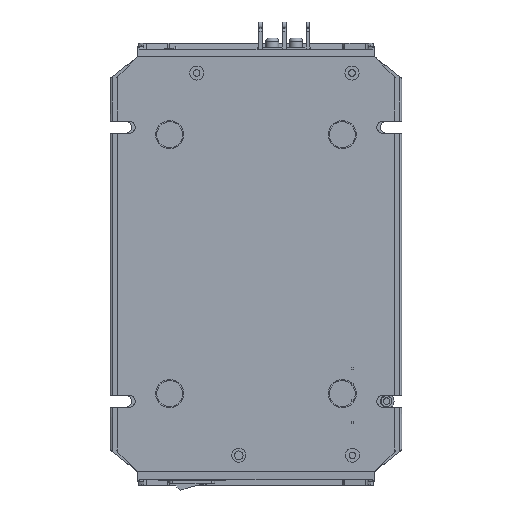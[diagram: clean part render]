
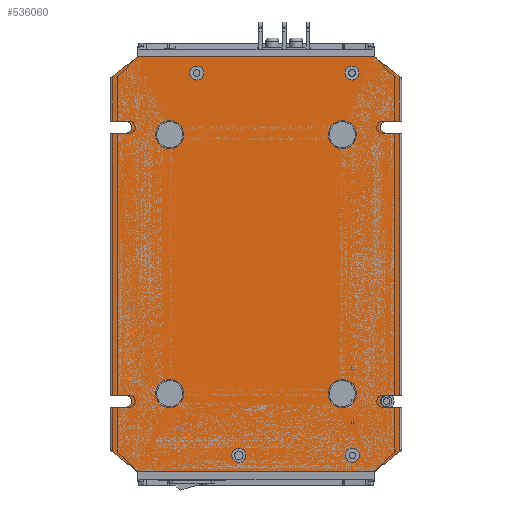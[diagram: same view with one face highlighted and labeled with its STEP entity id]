
A CAD part, front view. The second image highlights one B-rep face of the part: STEP entity #536060.
In plain terms, the highlighted planar face has unit normal (0, -1, 0).
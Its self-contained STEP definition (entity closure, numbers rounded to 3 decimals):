
#533390=CARTESIAN_POINT('',(2120.876,32.204,384.774));
#533400=DIRECTION('',(0.,1.,-0.));
#533410=DIRECTION('',(-1.,0.,0.));
#533420=AXIS2_PLACEMENT_3D('',#533390,#533400,#533410);
#533430=PLANE('',#533420);
#533440=CARTESIAN_POINT('',(2101.376,32.204,210.4));
#533450=DIRECTION('',(0.,-1.,0.));
#533460=DIRECTION('',(1.,0.,0.));
#533470=AXIS2_PLACEMENT_3D('',#533440,#533450,#533460);
#533480=CIRCLE('',#533470,6.5);
#533490=CARTESIAN_POINT('',(2107.876,32.204,210.4));
#533500=VERTEX_POINT('',#533490);
#533510=CARTESIAN_POINT('',(2094.876,32.204,210.4));
#533520=VERTEX_POINT('',#533510);
#533530=EDGE_CURVE('',#533500,#533520,#533480,.T.);
#533540=ORIENTED_EDGE('',*,*,#533530,.F.);
#533550=EDGE_CURVE('',#533520,#533500,#533480,.T.);
#533560=ORIENTED_EDGE('',*,*,#533550,.F.);
#533570=EDGE_LOOP('',(#533560,#533540));
#533580=FACE_BOUND('',#533570,.T.);
#533590=CARTESIAN_POINT('',(2021.376,32.204,330.4));
#533600=DIRECTION('',(0.,-1.,0.));
#533610=DIRECTION('',(1.,0.,0.));
#533620=AXIS2_PLACEMENT_3D('',#533590,#533600,#533610);
#533630=CIRCLE('',#533620,6.5);
#533640=CARTESIAN_POINT('',(2015.747,32.204,333.65));
#533650=VERTEX_POINT('',#533640);
#533660=CARTESIAN_POINT('',(2014.876,32.204,330.4));
#533670=VERTEX_POINT('',#533660);
#533680=EDGE_CURVE('',#533650,#533670,#533630,.T.);
#533690=ORIENTED_EDGE('',*,*,#533680,.F.);
#533700=CARTESIAN_POINT('',(2027.876,32.204,330.4));
#533710=VERTEX_POINT('',#533700);
#533720=EDGE_CURVE('',#533670,#533710,#533630,.T.);
#533730=ORIENTED_EDGE('',*,*,#533720,.F.);
#533740=EDGE_CURVE('',#533710,#533650,#533630,.T.);
#533750=ORIENTED_EDGE('',*,*,#533740,.F.);
#533760=EDGE_LOOP('',(#533750,#533730,#533690));
#533770=FACE_BOUND('',#533760,.T.);
#533780=CARTESIAN_POINT('',(2101.376,32.204,330.4));
#533790=DIRECTION('',(0.,-1.,0.));
#533800=DIRECTION('',(1.,0.,0.));
#533810=AXIS2_PLACEMENT_3D('',#533780,#533790,#533800);
#533820=CIRCLE('',#533810,6.5);
#533830=CARTESIAN_POINT('',(2107.876,32.204,330.4));
#533840=VERTEX_POINT('',#533830);
#533850=CARTESIAN_POINT('',(2094.876,32.204,330.4));
#533860=VERTEX_POINT('',#533850);
#533870=EDGE_CURVE('',#533840,#533860,#533820,.T.);
#533880=ORIENTED_EDGE('',*,*,#533870,.F.);
#533890=EDGE_CURVE('',#533860,#533840,#533820,.T.);
#533900=ORIENTED_EDGE('',*,*,#533890,.F.);
#533910=EDGE_LOOP('',(#533900,#533880));
#533920=FACE_BOUND('',#533910,.T.);
#533930=CARTESIAN_POINT('',(2021.376,32.204,210.4));
#533940=DIRECTION('',(0.,-1.,0.));
#533950=DIRECTION('',(1.,0.,0.));
#533960=AXIS2_PLACEMENT_3D('',#533930,#533940,#533950);
#533970=CIRCLE('',#533960,6.5);
#533980=CARTESIAN_POINT('',(2027.876,32.204,210.4));
#533990=VERTEX_POINT('',#533980);
#534000=CARTESIAN_POINT('',(2014.876,32.204,210.4));
#534010=VERTEX_POINT('',#534000);
#534020=EDGE_CURVE('',#533990,#534010,#533970,.T.);
#534030=ORIENTED_EDGE('',*,*,#534020,.F.);
#534040=EDGE_CURVE('',#534010,#533990,#533970,.T.);
#534050=ORIENTED_EDGE('',*,*,#534040,.F.);
#534060=EDGE_LOOP('',(#534050,#534030));
#534070=FACE_BOUND('',#534060,.T.);
#534080=CARTESIAN_POINT('',(0.,32.204,-1518.801));
#534090=DIRECTION('',(-0.781,0.,-0.625));
#534100=VECTOR('',#534090,1.);
#534110=LINE('',#534080,#534100);
#534120=CARTESIAN_POINT('',(2127.876,32.204,183.5));
#534130=VERTEX_POINT('',#534120);
#534140=CARTESIAN_POINT('',(2116.376,32.204,174.3));
#534150=VERTEX_POINT('',#534140);
#534160=EDGE_CURVE('',#534130,#534150,#534110,.T.);
#534170=ORIENTED_EDGE('',*,*,#534160,.F.);
#534180=CARTESIAN_POINT('',(0.,32.204,174.3));
#534190=DIRECTION('',(-1.,0.,0.));
#534200=VECTOR('',#534190,1.);
#534210=LINE('',#534180,#534200);
#534220=CARTESIAN_POINT('',(2006.376,32.204,174.3));
#534230=VERTEX_POINT('',#534220);
#534240=EDGE_CURVE('',#534150,#534230,#534210,.T.);
#534250=ORIENTED_EDGE('',*,*,#534240,.F.);
#534260=CARTESIAN_POINT('',(0.,32.204,1779.401));
#534270=DIRECTION('',(-0.781,0.,0.625));
#534280=VECTOR('',#534270,1.);
#534290=LINE('',#534260,#534280);
#534300=CARTESIAN_POINT('',(1994.876,32.204,183.5));
#534310=VERTEX_POINT('',#534300);
#534320=EDGE_CURVE('',#534230,#534310,#534290,.T.);
#534330=ORIENTED_EDGE('',*,*,#534320,.F.);
#534340=CARTESIAN_POINT('',(1994.876,32.204,0.));
#534350=DIRECTION('',(0.,0.,1.));
#534360=VECTOR('',#534350,1.);
#534370=LINE('',#534340,#534360);
#534380=CARTESIAN_POINT('',(1994.876,32.204,204.15));
#534390=VERTEX_POINT('',#534380);
#534400=EDGE_CURVE('',#534310,#534390,#534370,.T.);
#534410=ORIENTED_EDGE('',*,*,#534400,.F.);
#534420=CARTESIAN_POINT('',(0.,32.204,204.15));
#534430=DIRECTION('',(1.,0.,0.));
#534440=VECTOR('',#534430,1.);
#534450=LINE('',#534420,#534440);
#534460=CARTESIAN_POINT('',(2000.876,32.204,204.15));
#534470=VERTEX_POINT('',#534460);
#534480=EDGE_CURVE('',#534390,#534470,#534450,.T.);
#534490=ORIENTED_EDGE('',*,*,#534480,.F.);
#534500=CARTESIAN_POINT('',(2000.876,32.204,206.9));
#534510=DIRECTION('',(0.,1.,0.));
#534520=DIRECTION('',(0.,0.,1.));
#534530=AXIS2_PLACEMENT_3D('',#534500,#534510,#534520);
#534540=CIRCLE('',#534530,2.75);
#534550=CARTESIAN_POINT('',(2000.876,32.204,209.65));
#534560=VERTEX_POINT('',#534550);
#534570=EDGE_CURVE('',#534560,#534470,#534540,.T.);
#534580=ORIENTED_EDGE('',*,*,#534570,.T.);
#534590=CARTESIAN_POINT('',(0.,32.204,209.65));
#534600=DIRECTION('',(-1.,0.,0.));
#534610=VECTOR('',#534600,1.);
#534620=LINE('',#534590,#534610);
#534630=CARTESIAN_POINT('',(1994.876,32.204,209.65));
#534640=VERTEX_POINT('',#534630);
#534650=EDGE_CURVE('',#534560,#534640,#534620,.T.);
#534660=ORIENTED_EDGE('',*,*,#534650,.F.);
#534670=CARTESIAN_POINT('',(1994.876,32.204,0.));
#534680=DIRECTION('',(0.,0.,1.));
#534690=VECTOR('',#534680,1.);
#534700=LINE('',#534670,#534690);
#534710=CARTESIAN_POINT('',(1994.876,32.204,331.15));
#534720=VERTEX_POINT('',#534710);
#534730=EDGE_CURVE('',#534640,#534720,#534700,.T.);
#534740=ORIENTED_EDGE('',*,*,#534730,.F.);
#534750=CARTESIAN_POINT('',(0.,32.204,331.15));
#534760=DIRECTION('',(1.,0.,0.));
#534770=VECTOR('',#534760,1.);
#534780=LINE('',#534750,#534770);
#534790=CARTESIAN_POINT('',(2000.876,32.204,331.15));
#534800=VERTEX_POINT('',#534790);
#534810=EDGE_CURVE('',#534720,#534800,#534780,.T.);
#534820=ORIENTED_EDGE('',*,*,#534810,.F.);
#534830=CARTESIAN_POINT('',(2000.876,32.204,333.9));
#534840=DIRECTION('',(0.,1.,0.));
#534850=DIRECTION('',(0.,0.,1.));
#534860=AXIS2_PLACEMENT_3D('',#534830,#534840,#534850);
#534870=CIRCLE('',#534860,2.75);
#534880=CARTESIAN_POINT('',(2000.876,32.204,336.65));
#534890=VERTEX_POINT('',#534880);
#534900=EDGE_CURVE('',#534890,#534800,#534870,.T.);
#534910=ORIENTED_EDGE('',*,*,#534900,.T.);
#534920=CARTESIAN_POINT('',(0.,32.204,336.65));
#534930=DIRECTION('',(-1.,0.,0.));
#534940=VECTOR('',#534930,1.);
#534950=LINE('',#534920,#534940);
#534960=CARTESIAN_POINT('',(1994.876,32.204,336.65));
#534970=VERTEX_POINT('',#534960);
#534980=EDGE_CURVE('',#534890,#534970,#534950,.T.);
#534990=ORIENTED_EDGE('',*,*,#534980,.F.);
#535000=CARTESIAN_POINT('',(1994.876,32.204,0.));
#535010=DIRECTION('',(0.,0.,1.));
#535020=VECTOR('',#535010,1.);
#535030=LINE('',#535000,#535020);
#535040=CARTESIAN_POINT('',(1994.876,32.204,357.3));
#535050=VERTEX_POINT('',#535040);
#535060=EDGE_CURVE('',#534970,#535050,#535030,.T.);
#535070=ORIENTED_EDGE('',*,*,#535060,.F.);
#535080=CARTESIAN_POINT('',(0.,32.204,-1238.601));
#535090=DIRECTION('',(0.781,0.,0.625));
#535100=VECTOR('',#535090,1.);
#535110=LINE('',#535080,#535100);
#535120=CARTESIAN_POINT('',(2006.376,32.204,366.5));
#535130=VERTEX_POINT('',#535120);
#535140=EDGE_CURVE('',#535050,#535130,#535110,.T.);
#535150=ORIENTED_EDGE('',*,*,#535140,.F.);
#535160=CARTESIAN_POINT('',(0.,32.204,366.5));
#535170=DIRECTION('',(1.,0.,0.));
#535180=VECTOR('',#535170,1.);
#535190=LINE('',#535160,#535180);
#535200=CARTESIAN_POINT('',(2116.376,32.204,366.5));
#535210=VERTEX_POINT('',#535200);
#535220=EDGE_CURVE('',#535130,#535210,#535190,.T.);
#535230=ORIENTED_EDGE('',*,*,#535220,.F.);
#535240=CARTESIAN_POINT('',(0.,32.204,2059.601));
#535250=DIRECTION('',(0.781,0.,-0.625));
#535260=VECTOR('',#535250,1.);
#535270=LINE('',#535240,#535260);
#535280=CARTESIAN_POINT('',(2127.876,32.204,357.3));
#535290=VERTEX_POINT('',#535280);
#535300=EDGE_CURVE('',#535210,#535290,#535270,.T.);
#535310=ORIENTED_EDGE('',*,*,#535300,.F.);
#535320=CARTESIAN_POINT('',(2127.876,32.204,0.));
#535330=DIRECTION('',(0.,0.,-1.));
#535340=VECTOR('',#535330,1.);
#535350=LINE('',#535320,#535340);
#535360=CARTESIAN_POINT('',(2127.876,32.204,336.65));
#535370=VERTEX_POINT('',#535360);
#535380=EDGE_CURVE('',#535290,#535370,#535350,.T.);
#535390=ORIENTED_EDGE('',*,*,#535380,.F.);
#535400=CARTESIAN_POINT('',(0.,32.204,336.65));
#535410=DIRECTION('',(-1.,0.,0.));
#535420=VECTOR('',#535410,1.);
#535430=LINE('',#535400,#535420);
#535440=CARTESIAN_POINT('',(2121.876,32.204,336.65));
#535450=VERTEX_POINT('',#535440);
#535460=EDGE_CURVE('',#535370,#535450,#535430,.T.);
#535470=ORIENTED_EDGE('',*,*,#535460,.F.);
#535480=CARTESIAN_POINT('',(2121.876,32.204,333.9));
#535490=DIRECTION('',(0.,-1.,0.));
#535500=DIRECTION('',(0.,0.,1.));
#535510=AXIS2_PLACEMENT_3D('',#535480,#535490,#535500);
#535520=CIRCLE('',#535510,2.75);
#535530=CARTESIAN_POINT('',(2121.876,32.204,331.15));
#535540=VERTEX_POINT('',#535530);
#535550=EDGE_CURVE('',#535450,#535540,#535520,.T.);
#535560=ORIENTED_EDGE('',*,*,#535550,.F.);
#535570=CARTESIAN_POINT('',(0.,32.204,331.15));
#535580=DIRECTION('',(1.,0.,0.));
#535590=VECTOR('',#535580,1.);
#535600=LINE('',#535570,#535590);
#535610=CARTESIAN_POINT('',(2127.876,32.204,331.15));
#535620=VERTEX_POINT('',#535610);
#535630=EDGE_CURVE('',#535540,#535620,#535600,.T.);
#535640=ORIENTED_EDGE('',*,*,#535630,.F.);
#535650=CARTESIAN_POINT('',(2127.876,32.204,0.));
#535660=DIRECTION('',(0.,0.,-1.));
#535670=VECTOR('',#535660,1.);
#535680=LINE('',#535650,#535670);
#535690=CARTESIAN_POINT('',(2127.876,32.204,209.65));
#535700=VERTEX_POINT('',#535690);
#535710=EDGE_CURVE('',#535620,#535700,#535680,.T.);
#535720=ORIENTED_EDGE('',*,*,#535710,.F.);
#535730=CARTESIAN_POINT('',(0.,32.204,209.65));
#535740=DIRECTION('',(-1.,0.,0.));
#535750=VECTOR('',#535740,1.);
#535760=LINE('',#535730,#535750);
#535770=CARTESIAN_POINT('',(2121.876,32.204,209.65));
#535780=VERTEX_POINT('',#535770);
#535790=EDGE_CURVE('',#535700,#535780,#535760,.T.);
#535800=ORIENTED_EDGE('',*,*,#535790,.F.);
#535810=CARTESIAN_POINT('',(2121.876,32.204,206.9));
#535820=DIRECTION('',(0.,-1.,0.));
#535830=DIRECTION('',(0.,0.,1.));
#535840=AXIS2_PLACEMENT_3D('',#535810,#535820,#535830);
#535850=CIRCLE('',#535840,2.75);
#535860=CARTESIAN_POINT('',(2121.876,32.204,204.15));
#535870=VERTEX_POINT('',#535860);
#535880=EDGE_CURVE('',#535780,#535870,#535850,.T.);
#535890=ORIENTED_EDGE('',*,*,#535880,.F.);
#535900=CARTESIAN_POINT('',(0.,32.204,204.15));
#535910=DIRECTION('',(1.,0.,0.));
#535920=VECTOR('',#535910,1.);
#535930=LINE('',#535900,#535920);
#535940=CARTESIAN_POINT('',(2127.876,32.204,204.15));
#535950=VERTEX_POINT('',#535940);
#535960=EDGE_CURVE('',#535870,#535950,#535930,.T.);
#535970=ORIENTED_EDGE('',*,*,#535960,.F.);
#535980=CARTESIAN_POINT('',(2127.876,32.204,0.));
#535990=DIRECTION('',(0.,0.,-1.));
#536000=VECTOR('',#535990,1.);
#536010=LINE('',#535980,#536000);
#536020=EDGE_CURVE('',#535950,#534130,#536010,.T.);
#536030=ORIENTED_EDGE('',*,*,#536020,.F.);
#536040=EDGE_LOOP('',(#536030,#535970,#535890,#535800,#535720,#535640,
#535560,#535470,#535390,#535310,#535230,#535150,#535070,#534990,#534910,
#534820,#534740,#534660,#534580,#534490,#534410,#534330,#534250,#534170)
);
#536050=FACE_OUTER_BOUND('',#536040,.T.);
#536060=ADVANCED_FACE('',(#533580,#533770,#533920,#534070,#536050),
#533430,.F.);
